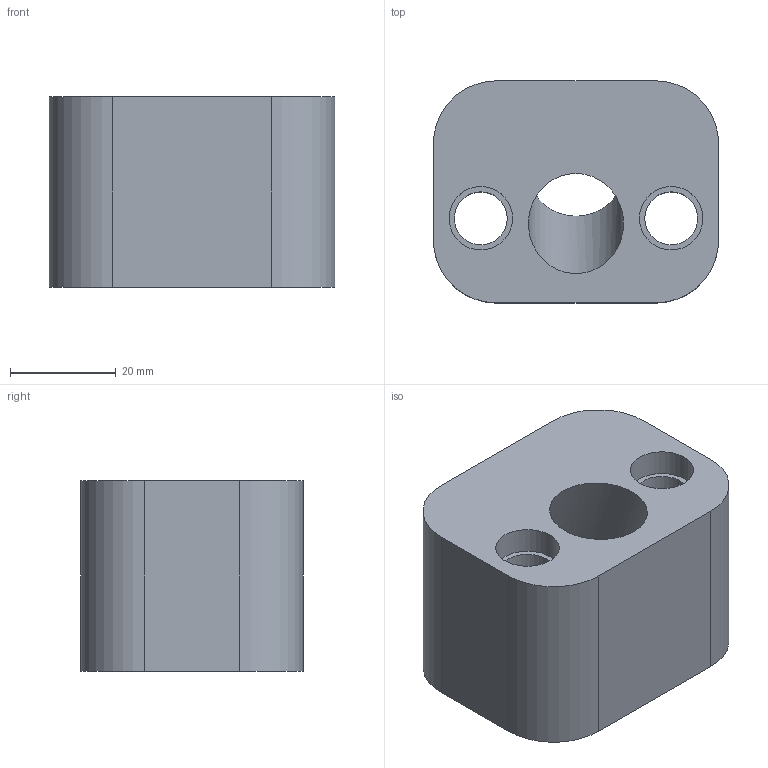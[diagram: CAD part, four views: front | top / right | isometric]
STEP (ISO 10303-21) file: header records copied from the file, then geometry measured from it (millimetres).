
FILE_DESCRIPTION(/* description */ ('STEP AP214'),/* implementation_level */ '2;1');
FILE_NAME(/* name */ 'F30601842',/* time_stamp */ '2024-09-18T16:04:12+02:00',/* author */ ('License CC BY-ND 4.0'),/* organization */ ('CADENAS'),/* preprocessor_version */ 'ST-DEVELOPER v19.3',/* originating_system */ 'PARTsolutions',/* authorisation */ ' ');
FILE_SCHEMA (('AUTOMOTIVE_DESIGN {1 0 10303 214 3 1 1}'));
Length unit declared in the file: millimetre
Products named in the file (1): F30601842
Bounding box: 54 x 42 x 36 mm (x, y, z)
Volume: 61064.2 mm3; surface area: 14121.8 mm2
Topology: 1 solids, 1 shells, 19 faces, 42 edges, 28 vertices
Faces by surface type: cylinder 10, plane 9
Full cylindrical faces by diameter (mm): 10 x2, 12 x2, 18 x1, 21 x1
Entity records: 548 total; most frequent: DIRECTION 96, CARTESIAN_POINT 84, ORIENTED_EDGE 72, AXIS2_PLACEMENT_3D 40, EDGE_CURVE 36, EDGE_LOOP 34, FACE_BOUND 34, VERTEX_POINT 28
